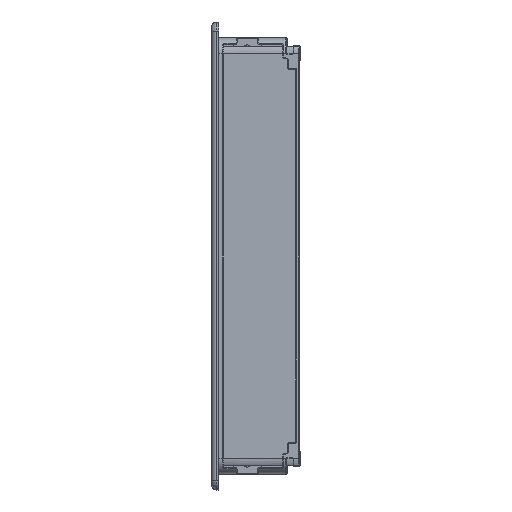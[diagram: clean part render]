
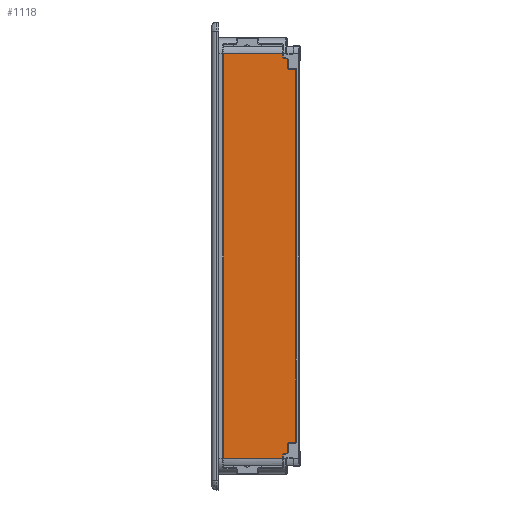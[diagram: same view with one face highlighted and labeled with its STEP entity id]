
A CAD part, left-side view. The second image highlights one B-rep face of the part: STEP entity #1118.
In plain terms, the highlighted planar face has unit normal (-1, 0, 0).
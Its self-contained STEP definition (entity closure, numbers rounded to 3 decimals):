
#92=CARTESIAN_POINT('',(-140.55,-1.5,64.001));
#93=VERTEX_POINT('',#92);
#101=CARTESIAN_POINT('',(-140.55,-20.3,64.001));
#102=VERTEX_POINT('',#101);
#103=CARTESIAN_POINT('',(-140.55,-1.5,64.001));
#104=DIRECTION('',(0.0,-1.0,0.0));
#105=VECTOR('',#104,18.8);
#106=LINE('',#103,#105);
#107=EDGE_CURVE('',#93,#102,#106,.T.);
#961=CARTESIAN_POINT('',(-140.55,-1.5,-64.0));
#962=DIRECTION('',(-1.0,0.0,0.0));
#963=DIRECTION('',(0.0,0.0,1.0));
#964=AXIS2_PLACEMENT_3D('',#961,#962,#963);
#965=PLANE('',#964);
#966=CARTESIAN_POINT('',(-140.55,-20.3,62.901));
#967=VERTEX_POINT('',#966);
#968=CARTESIAN_POINT('',(-140.55,-20.3,64.001));
#969=DIRECTION('',(0.0,0.0,-1.0));
#970=VECTOR('',#969,1.1);
#971=LINE('',#968,#970);
#972=EDGE_CURVE('',#102,#967,#971,.T.);
#973=ORIENTED_EDGE('',*,*,#972,.F.);
#974=ORIENTED_EDGE('',*,*,#107,.F.);
#975=CARTESIAN_POINT('',(-140.55,-1.5,-64.0));
#976=VERTEX_POINT('',#975);
#977=CARTESIAN_POINT('',(-140.55,-1.5,-64.0));
#978=DIRECTION('',(0.0,0.0,1.0));
#979=VECTOR('',#978,128.001);
#980=LINE('',#977,#979);
#981=EDGE_CURVE('',#976,#93,#980,.T.);
#982=ORIENTED_EDGE('',*,*,#981,.F.);
#983=CARTESIAN_POINT('',(-140.55,-20.3,-64.0));
#984=VERTEX_POINT('',#983);
#985=CARTESIAN_POINT('',(-140.55,-1.5,-64.0));
#986=DIRECTION('',(0.0,-1.0,0.0));
#987=VECTOR('',#986,18.8);
#988=LINE('',#985,#987);
#989=EDGE_CURVE('',#976,#984,#988,.T.);
#990=ORIENTED_EDGE('',*,*,#989,.T.);
#991=CARTESIAN_POINT('',(-140.55,-20.3,-62.9));
#992=VERTEX_POINT('',#991);
#993=CARTESIAN_POINT('',(-140.55,-20.3,-62.9));
#994=DIRECTION('',(0.0,0.0,-1.0));
#995=VECTOR('',#994,1.1);
#996=LINE('',#993,#995);
#997=EDGE_CURVE('',#992,#984,#996,.T.);
#998=ORIENTED_EDGE('',*,*,#997,.F.);
#999=CARTESIAN_POINT('',(-140.55,-20.8,-62.4));
#1000=VERTEX_POINT('',#999);
#1001=CARTESIAN_POINT('',(-140.55,-20.8,-62.9));
#1002=DIRECTION('',(-1.0,0.,0.));
#1003=DIRECTION('',(0.,1.0,0.));
#1004=AXIS2_PLACEMENT_3D('',#1001,#1002,#1003);
#1005=CIRCLE('',#1004,0.5);
#1006=EDGE_CURVE('',#1000,#992,#1005,.T.);
#1007=ORIENTED_EDGE('',*,*,#1006,.F.);
#1008=CARTESIAN_POINT('',(-140.55,-21.3,-62.4));
#1009=VERTEX_POINT('',#1008);
#1010=CARTESIAN_POINT('',(-140.55,-21.3,-62.4));
#1011=DIRECTION('',(0.0,1.0,0.0));
#1012=VECTOR('',#1011,0.5);
#1013=LINE('',#1010,#1012);
#1014=EDGE_CURVE('',#1009,#1000,#1013,.T.);
#1015=ORIENTED_EDGE('',*,*,#1014,.F.);
#1016=CARTESIAN_POINT('',(-140.55,-21.8,-61.9));
#1017=VERTEX_POINT('',#1016);
#1018=CARTESIAN_POINT('',(-140.55,-21.3,-61.9));
#1019=DIRECTION('',(1.0,0.0,0.0));
#1020=DIRECTION('',(0.0,1.0,0.0));
#1021=AXIS2_PLACEMENT_3D('',#1018,#1019,#1020);
#1022=CIRCLE('',#1021,0.5);
#1023=EDGE_CURVE('',#1017,#1009,#1022,.T.);
#1024=ORIENTED_EDGE('',*,*,#1023,.F.);
#1025=CARTESIAN_POINT('',(-140.55,-21.8,-59.55));
#1026=VERTEX_POINT('',#1025);
#1027=CARTESIAN_POINT('',(-140.55,-21.8,-59.55));
#1028=DIRECTION('',(0.0,0.0,-1.0));
#1029=VECTOR('',#1028,2.35);
#1030=LINE('',#1027,#1029);
#1031=EDGE_CURVE('',#1026,#1017,#1030,.T.);
#1032=ORIENTED_EDGE('',*,*,#1031,.F.);
#1033=CARTESIAN_POINT('',(-140.55,-22.3,-59.05));
#1034=VERTEX_POINT('',#1033);
#1035=CARTESIAN_POINT('',(-140.55,-22.3,-59.55));
#1036=DIRECTION('',(1.0,0.0,0.0));
#1037=DIRECTION('',(0.0,-1.0,0.0));
#1038=AXIS2_PLACEMENT_3D('',#1035,#1036,#1037);
#1039=CIRCLE('',#1038,0.5);
#1040=EDGE_CURVE('',#1026,#1034,#1039,.T.);
#1041=ORIENTED_EDGE('',*,*,#1040,.T.);
#1042=CARTESIAN_POINT('',(-140.55,-23.9,-59.05));
#1043=VERTEX_POINT('',#1042);
#1044=CARTESIAN_POINT('',(-140.55,-22.3,-59.05));
#1045=DIRECTION('',(0.0,-1.0,0.0));
#1046=VECTOR('',#1045,1.6);
#1047=LINE('',#1044,#1046);
#1048=EDGE_CURVE('',#1034,#1043,#1047,.T.);
#1049=ORIENTED_EDGE('',*,*,#1048,.T.);
#1050=CARTESIAN_POINT('',(-140.55,-24.4,-58.55));
#1051=VERTEX_POINT('',#1050);
#1052=CARTESIAN_POINT('',(-140.55,-23.9,-58.55));
#1053=DIRECTION('',(1.0,0.0,0.0));
#1054=DIRECTION('',(0.0,-1.0,0.0));
#1055=AXIS2_PLACEMENT_3D('',#1052,#1053,#1054);
#1056=CIRCLE('',#1055,0.5);
#1057=EDGE_CURVE('',#1051,#1043,#1056,.T.);
#1058=ORIENTED_EDGE('',*,*,#1057,.F.);
#1059=CARTESIAN_POINT('',(-140.55,-24.4,59.051));
#1060=VERTEX_POINT('',#1059);
#1061=CARTESIAN_POINT('',(-140.55,-24.4,59.051));
#1062=DIRECTION('',(0.0,0.0,-1.0));
#1063=VECTOR('',#1062,117.601);
#1064=LINE('',#1061,#1063);
#1065=EDGE_CURVE('',#1060,#1051,#1064,.T.);
#1066=ORIENTED_EDGE('',*,*,#1065,.F.);
#1067=CARTESIAN_POINT('',(-140.55,-22.3,59.051));
#1068=VERTEX_POINT('',#1067);
#1069=CARTESIAN_POINT('',(-140.55,-22.3,59.051));
#1070=DIRECTION('',(0.0,-1.0,0.0));
#1071=VECTOR('',#1070,2.1);
#1072=LINE('',#1069,#1071);
#1073=EDGE_CURVE('',#1068,#1060,#1072,.T.);
#1074=ORIENTED_EDGE('',*,*,#1073,.F.);
#1075=CARTESIAN_POINT('',(-140.55,-21.8,59.551));
#1076=VERTEX_POINT('',#1075);
#1077=CARTESIAN_POINT('',(-140.55,-22.3,59.551));
#1078=DIRECTION('',(1.0,0.0,0.0));
#1079=DIRECTION('',(0.0,1.0,0.));
#1080=AXIS2_PLACEMENT_3D('',#1077,#1078,#1079);
#1081=CIRCLE('',#1080,0.5);
#1082=EDGE_CURVE('',#1068,#1076,#1081,.T.);
#1083=ORIENTED_EDGE('',*,*,#1082,.T.);
#1084=CARTESIAN_POINT('',(-140.55,-21.8,61.901));
#1085=VERTEX_POINT('',#1084);
#1086=CARTESIAN_POINT('',(-140.55,-21.8,61.901));
#1087=DIRECTION('',(0.0,0.0,-1.0));
#1088=VECTOR('',#1087,2.35);
#1089=LINE('',#1086,#1088);
#1090=EDGE_CURVE('',#1085,#1076,#1089,.T.);
#1091=ORIENTED_EDGE('',*,*,#1090,.F.);
#1092=CARTESIAN_POINT('',(-140.55,-21.3,62.401));
#1093=VERTEX_POINT('',#1092);
#1094=CARTESIAN_POINT('',(-140.55,-21.3,61.901));
#1095=DIRECTION('',(1.0,0.0,0.0));
#1096=DIRECTION('',(0.0,-1.0,0.0));
#1097=AXIS2_PLACEMENT_3D('',#1094,#1095,#1096);
#1098=CIRCLE('',#1097,0.5);
#1099=EDGE_CURVE('',#1093,#1085,#1098,.T.);
#1100=ORIENTED_EDGE('',*,*,#1099,.F.);
#1101=CARTESIAN_POINT('',(-140.55,-20.8,62.401));
#1102=VERTEX_POINT('',#1101);
#1103=CARTESIAN_POINT('',(-140.55,-20.8,62.401));
#1104=DIRECTION('',(0.0,-1.0,0.0));
#1105=VECTOR('',#1104,0.5);
#1106=LINE('',#1103,#1105);
#1107=EDGE_CURVE('',#1102,#1093,#1106,.T.);
#1108=ORIENTED_EDGE('',*,*,#1107,.F.);
#1109=CARTESIAN_POINT('',(-140.55,-20.8,62.901));
#1110=DIRECTION('',(-1.0,0.0,0.0));
#1111=DIRECTION('',(0.0,0.0,1.0));
#1112=AXIS2_PLACEMENT_3D('',#1109,#1110,#1111);
#1113=CIRCLE('',#1112,0.5);
#1114=EDGE_CURVE('',#967,#1102,#1113,.T.);
#1115=ORIENTED_EDGE('',*,*,#1114,.F.);
#1116=EDGE_LOOP('',(#973,#974,#982,#990,#998,#1007,#1015,#1024,#1032,#1041,#1049,#1058,#1066,#1074,#1083,#1091,#1100,#1108,#1115));
#1117=FACE_OUTER_BOUND('',#1116,.T.);
#1118=ADVANCED_FACE('',(#1117),#965,.T.);
